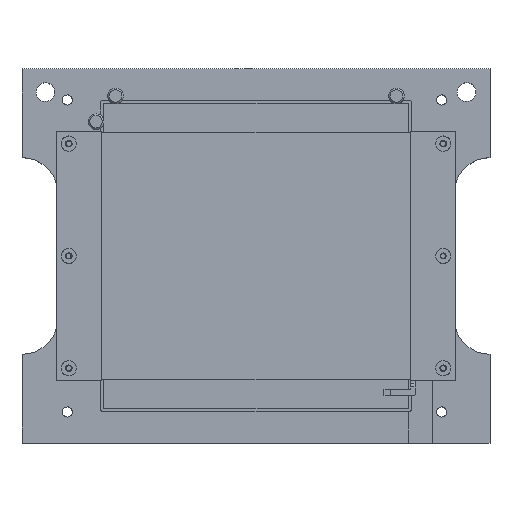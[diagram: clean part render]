
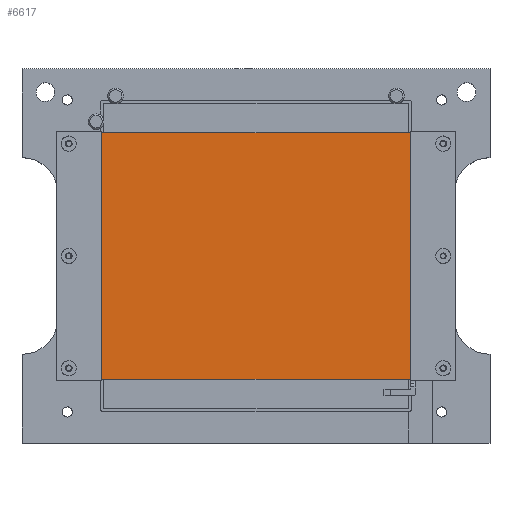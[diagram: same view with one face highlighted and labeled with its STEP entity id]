
A CAD part, top view. The second image highlights one B-rep face of the part: STEP entity #6617.
In plain terms, the highlighted planar face has unit normal (0, 0, 1).
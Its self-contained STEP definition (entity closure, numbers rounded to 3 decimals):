
#6091=CARTESIAN_POINT('Vertex',(-63.5,39.5,0.325)) ;
#6105=CARTESIAN_POINT('Vertex',(-63.5,-39.5,0.325)) ;
#6108=CARTESIAN_POINT('Line Origine',(-63.5,0.,0.325)) ;
#6136=CARTESIAN_POINT('Vertex',(63.5,-39.5,0.325)) ;
#6139=CARTESIAN_POINT('Line Origine',(0.,-39.5,0.325)) ;
#6167=CARTESIAN_POINT('Vertex',(63.5,39.5,0.325)) ;
#6170=CARTESIAN_POINT('Line Origine',(63.5,0.,0.325)) ;
#6192=CARTESIAN_POINT('Line Origine',(0.,39.5,0.325)) ;
#6209=CARTESIAN_POINT('Axis2P3D Location',(60.,-36.,0.325)) ;
#6213=CARTESIAN_POINT('Vertex',(58.6,-36.,0.325)) ;
#6215=CARTESIAN_POINT('Vertex',(61.4,-36.,0.325)) ;
#6244=CARTESIAN_POINT('Axis2P3D Location',(60.,-36.,0.325)) ;
#6266=CARTESIAN_POINT('Axis2P3D Location',(60.,0.,0.325)) ;
#6270=CARTESIAN_POINT('Vertex',(58.6,0.,0.325)) ;
#6272=CARTESIAN_POINT('Vertex',(61.4,0.,0.325)) ;
#6301=CARTESIAN_POINT('Axis2P3D Location',(60.,0.,0.325)) ;
#6323=CARTESIAN_POINT('Axis2P3D Location',(60.,36.,0.325)) ;
#6327=CARTESIAN_POINT('Vertex',(58.6,36.,0.325)) ;
#6329=CARTESIAN_POINT('Vertex',(61.4,36.,0.325)) ;
#6358=CARTESIAN_POINT('Axis2P3D Location',(60.,36.,0.325)) ;
#6380=CARTESIAN_POINT('Axis2P3D Location',(-60.,36.,0.325)) ;
#6384=CARTESIAN_POINT('Vertex',(-61.4,36.,0.325)) ;
#6386=CARTESIAN_POINT('Vertex',(-58.6,36.,0.325)) ;
#6415=CARTESIAN_POINT('Axis2P3D Location',(-60.,36.,0.325)) ;
#6437=CARTESIAN_POINT('Axis2P3D Location',(-60.,0.,0.325)) ;
#6441=CARTESIAN_POINT('Vertex',(-61.4,0.,0.325)) ;
#6443=CARTESIAN_POINT('Vertex',(-58.6,0.,0.325)) ;
#6472=CARTESIAN_POINT('Axis2P3D Location',(-60.,0.,0.325)) ;
#6494=CARTESIAN_POINT('Axis2P3D Location',(-60.,-36.,0.325)) ;
#6498=CARTESIAN_POINT('Vertex',(-61.4,-36.,0.325)) ;
#6500=CARTESIAN_POINT('Vertex',(-58.6,-36.,0.325)) ;
#6529=CARTESIAN_POINT('Axis2P3D Location',(-60.,-36.,0.325)) ;
#6582=CARTESIAN_POINT('Axis2P3D Location',(0.,0.,0.325)) ;
#6109=DIRECTION('Vector Direction',(0.,-1.,0.)) ;
#6140=DIRECTION('Vector Direction',(-1.,0.,0.)) ;
#6171=DIRECTION('Vector Direction',(0.,1.,0.)) ;
#6193=DIRECTION('Vector Direction',(1.,0.,0.)) ;
#6210=DIRECTION('Axis2P3D Direction',(0.,0.,1.)) ;
#6245=DIRECTION('Axis2P3D Direction',(0.,0.,1.)) ;
#6267=DIRECTION('Axis2P3D Direction',(0.,0.,1.)) ;
#6302=DIRECTION('Axis2P3D Direction',(0.,0.,1.)) ;
#6324=DIRECTION('Axis2P3D Direction',(0.,0.,1.)) ;
#6359=DIRECTION('Axis2P3D Direction',(0.,0.,1.)) ;
#6381=DIRECTION('Axis2P3D Direction',(0.,0.,1.)) ;
#6416=DIRECTION('Axis2P3D Direction',(0.,0.,1.)) ;
#6438=DIRECTION('Axis2P3D Direction',(0.,0.,1.)) ;
#6473=DIRECTION('Axis2P3D Direction',(0.,0.,1.)) ;
#6495=DIRECTION('Axis2P3D Direction',(0.,0.,1.)) ;
#6530=DIRECTION('Axis2P3D Direction',(0.,0.,1.)) ;
#6583=DIRECTION('Axis2P3D Direction',(0.,0.,1.)) ;
#6584=DIRECTION('Axis2P3D XDirection',(1.,0.,0.)) ;
#6211=AXIS2_PLACEMENT_3D('Circle Axis2P3D',#6209,#6210,$) ;
#6246=AXIS2_PLACEMENT_3D('Circle Axis2P3D',#6244,#6245,$) ;
#6268=AXIS2_PLACEMENT_3D('Circle Axis2P3D',#6266,#6267,$) ;
#6303=AXIS2_PLACEMENT_3D('Circle Axis2P3D',#6301,#6302,$) ;
#6325=AXIS2_PLACEMENT_3D('Circle Axis2P3D',#6323,#6324,$) ;
#6360=AXIS2_PLACEMENT_3D('Circle Axis2P3D',#6358,#6359,$) ;
#6382=AXIS2_PLACEMENT_3D('Circle Axis2P3D',#6380,#6381,$) ;
#6417=AXIS2_PLACEMENT_3D('Circle Axis2P3D',#6415,#6416,$) ;
#6439=AXIS2_PLACEMENT_3D('Circle Axis2P3D',#6437,#6438,$) ;
#6474=AXIS2_PLACEMENT_3D('Circle Axis2P3D',#6472,#6473,$) ;
#6496=AXIS2_PLACEMENT_3D('Circle Axis2P3D',#6494,#6495,$) ;
#6531=AXIS2_PLACEMENT_3D('Circle Axis2P3D',#6529,#6530,$) ;
#6585=AXIS2_PLACEMENT_3D('Plane Axis2P3D',#6582,#6583,#6584) ;
#6588=ORIENTED_EDGE('',*,*,#6112,.T.) ;
#6589=ORIENTED_EDGE('',*,*,#6143,.T.) ;
#6590=ORIENTED_EDGE('',*,*,#6174,.T.) ;
#6591=ORIENTED_EDGE('',*,*,#6196,.T.) ;
#6594=ORIENTED_EDGE('',*,*,#6217,.F.) ;
#6595=ORIENTED_EDGE('',*,*,#6248,.F.) ;
#6598=ORIENTED_EDGE('',*,*,#6274,.F.) ;
#6599=ORIENTED_EDGE('',*,*,#6305,.F.) ;
#6602=ORIENTED_EDGE('',*,*,#6331,.F.) ;
#6603=ORIENTED_EDGE('',*,*,#6362,.F.) ;
#6606=ORIENTED_EDGE('',*,*,#6388,.F.) ;
#6607=ORIENTED_EDGE('',*,*,#6419,.F.) ;
#6610=ORIENTED_EDGE('',*,*,#6445,.F.) ;
#6611=ORIENTED_EDGE('',*,*,#6476,.F.) ;
#6614=ORIENTED_EDGE('',*,*,#6502,.F.) ;
#6615=ORIENTED_EDGE('',*,*,#6533,.F.) ;
#6596=FACE_BOUND('',#6593,.T.) ;
#6600=FACE_BOUND('',#6597,.T.) ;
#6604=FACE_BOUND('',#6601,.T.) ;
#6608=FACE_BOUND('',#6605,.T.) ;
#6612=FACE_BOUND('',#6609,.T.) ;
#6616=FACE_BOUND('',#6613,.T.) ;
#6110=VECTOR('Line Direction',#6109,1.) ;
#6141=VECTOR('Line Direction',#6140,1.) ;
#6172=VECTOR('Line Direction',#6171,1.) ;
#6194=VECTOR('Line Direction',#6193,1.) ;
#6617=ADVANCED_FACE('Corps principal',(#6592,#6596,#6600,#6604,#6608,#6612,#6616),#6586,.T.) ;
#6212=CIRCLE('generated circle',#6211,1.4) ;
#6247=CIRCLE('generated circle',#6246,1.4) ;
#6269=CIRCLE('generated circle',#6268,1.4) ;
#6304=CIRCLE('generated circle',#6303,1.4) ;
#6326=CIRCLE('generated circle',#6325,1.4) ;
#6361=CIRCLE('generated circle',#6360,1.4) ;
#6383=CIRCLE('generated circle',#6382,1.4) ;
#6418=CIRCLE('generated circle',#6417,1.4) ;
#6440=CIRCLE('generated circle',#6439,1.4) ;
#6475=CIRCLE('generated circle',#6474,1.4) ;
#6497=CIRCLE('generated circle',#6496,1.4) ;
#6532=CIRCLE('generated circle',#6531,1.4) ;
#6112=EDGE_CURVE('',#6092,#6106,#6111,.T.) ;
#6143=EDGE_CURVE('',#6106,#6137,#6142,.F.) ;
#6174=EDGE_CURVE('',#6137,#6168,#6173,.T.) ;
#6196=EDGE_CURVE('',#6168,#6092,#6195,.F.) ;
#6217=EDGE_CURVE('',#6214,#6216,#6212,.T.) ;
#6248=EDGE_CURVE('',#6216,#6214,#6247,.T.) ;
#6274=EDGE_CURVE('',#6271,#6273,#6269,.T.) ;
#6305=EDGE_CURVE('',#6273,#6271,#6304,.T.) ;
#6331=EDGE_CURVE('',#6328,#6330,#6326,.T.) ;
#6362=EDGE_CURVE('',#6330,#6328,#6361,.T.) ;
#6388=EDGE_CURVE('',#6385,#6387,#6383,.T.) ;
#6419=EDGE_CURVE('',#6387,#6385,#6418,.T.) ;
#6445=EDGE_CURVE('',#6442,#6444,#6440,.T.) ;
#6476=EDGE_CURVE('',#6444,#6442,#6475,.T.) ;
#6502=EDGE_CURVE('',#6499,#6501,#6497,.T.) ;
#6533=EDGE_CURVE('',#6501,#6499,#6532,.T.) ;
#6587=EDGE_LOOP('',(#6588,#6589,#6590,#6591)) ;
#6593=EDGE_LOOP('',(#6594,#6595)) ;
#6597=EDGE_LOOP('',(#6598,#6599)) ;
#6601=EDGE_LOOP('',(#6602,#6603)) ;
#6605=EDGE_LOOP('',(#6606,#6607)) ;
#6609=EDGE_LOOP('',(#6610,#6611)) ;
#6613=EDGE_LOOP('',(#6614,#6615)) ;
#6592=FACE_OUTER_BOUND('',#6587,.T.) ;
#6111=LINE('Line',#6108,#6110) ;
#6142=LINE('Line',#6139,#6141) ;
#6173=LINE('Line',#6170,#6172) ;
#6195=LINE('Line',#6192,#6194) ;
#6586=PLANE('Plane',#6585) ;
#6092=VERTEX_POINT('',#6091) ;
#6106=VERTEX_POINT('',#6105) ;
#6137=VERTEX_POINT('',#6136) ;
#6168=VERTEX_POINT('',#6167) ;
#6214=VERTEX_POINT('',#6213) ;
#6216=VERTEX_POINT('',#6215) ;
#6271=VERTEX_POINT('',#6270) ;
#6273=VERTEX_POINT('',#6272) ;
#6328=VERTEX_POINT('',#6327) ;
#6330=VERTEX_POINT('',#6329) ;
#6385=VERTEX_POINT('',#6384) ;
#6387=VERTEX_POINT('',#6386) ;
#6442=VERTEX_POINT('',#6441) ;
#6444=VERTEX_POINT('',#6443) ;
#6499=VERTEX_POINT('',#6498) ;
#6501=VERTEX_POINT('',#6500) ;
